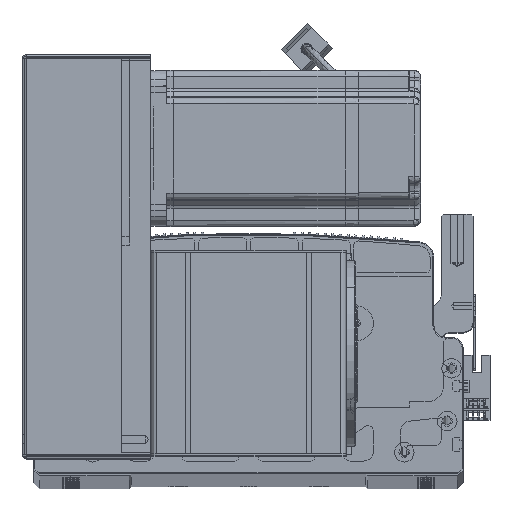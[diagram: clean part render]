
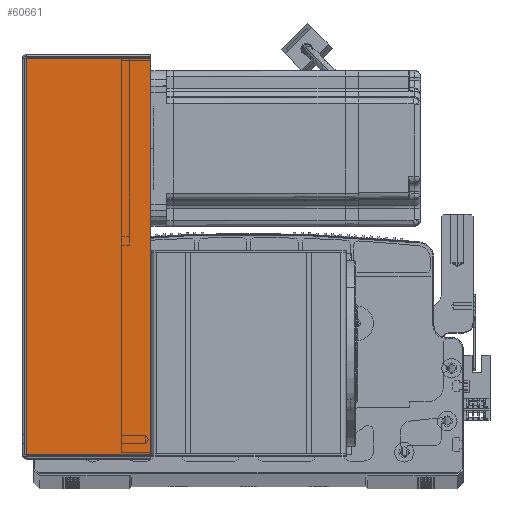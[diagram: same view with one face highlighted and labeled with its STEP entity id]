
A CAD part, top view. The second image highlights one B-rep face of the part: STEP entity #60661.
In plain terms, the highlighted planar face has unit normal (0, 0, 1) as drawn and (0, 1, 0) by its records, which use the part's own axes.
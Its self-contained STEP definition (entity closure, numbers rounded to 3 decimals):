
#1044 = EDGE_CURVE ( 'NONE', #84971, #80772, #10152, .T. ) ;
#2033 = ORIENTED_EDGE ( 'NONE', *, *, #13580, .F. ) ;
#4203 = DIRECTION ( 'NONE',  ( 1., 0., 0. ) ) ;
#4756 = FACE_OUTER_BOUND ( 'NONE', #4785, .T. ) ;
#4785 = EDGE_LOOP ( 'NONE', ( #32457, #64907, #42440, #2033 ) ) ;
#4966 = DIRECTION ( 'NONE',  ( 0., 0., -1. ) ) ;
#5075 = LINE ( 'NONE', #24574, #26545 ) ;
#10152 = LINE ( 'NONE', #41096, #97453 ) ;
#11559 = DIRECTION ( 'NONE',  ( 0., -1., 0. ) ) ;
#12204 = CARTESIAN_POINT ( 'NONE',  ( 64.5, 107.5, -0.707 ) ) ;
#13580 = EDGE_CURVE ( 'NONE', #104159, #99383, #87741, .T. ) ;
#14642 = CARTESIAN_POINT ( 'NONE',  ( 0.737, 107.5, -203.293 ) ) ;
#21918 = CARTESIAN_POINT ( 'NONE',  ( 64.5, 107.5, -204. ) ) ;
#24574 = CARTESIAN_POINT ( 'NONE',  ( 0.737, 107.5, 0. ) ) ;
#26545 = VECTOR ( 'NONE', #97329, 1000. ) ;
#32457 = ORIENTED_EDGE ( 'NONE', *, *, #83885, .F. ) ;
#39516 = VECTOR ( 'NONE', #4966, 1000. ) ;
#41096 = CARTESIAN_POINT ( 'NONE',  ( 0., 107.5, -0.707 ) ) ;
#41493 = AXIS2_PLACEMENT_3D ( 'NONE', #68582, #11559, #4203 ) ;
#42440 = ORIENTED_EDGE ( 'NONE', *, *, #64333, .T. ) ;
#43494 = CARTESIAN_POINT ( 'NONE',  ( 0.737, 107.5, -0.707 ) ) ;
#43587 = VECTOR ( 'NONE', #66172, 1000. ) ;
#51977 = PLANE ( 'NONE',  #41493 ) ;
#58049 = CARTESIAN_POINT ( 'NONE',  ( 0., 107.5, -203.293 ) ) ;
#60661 = ADVANCED_FACE ( 'NONE', ( #4756 ), #51977, .F. ) ;
#63647 = LINE ( 'NONE', #21918, #39516 ) ;
#64333 = EDGE_CURVE ( 'NONE', #80772, #99383, #63647, .T. ) ;
#64907 = ORIENTED_EDGE ( 'NONE', *, *, #1044, .T. ) ;
#66172 = DIRECTION ( 'NONE',  ( 1., 0., 0. ) ) ;
#68582 = CARTESIAN_POINT ( 'NONE',  ( 0., 107.5, 0. ) ) ;
#80772 = VERTEX_POINT ( 'NONE', #12204 ) ;
#82703 = DIRECTION ( 'NONE',  ( 1., 0., 0. ) ) ;
#83885 = EDGE_CURVE ( 'NONE', #84971, #104159, #5075, .T. ) ;
#84971 = VERTEX_POINT ( 'NONE', #43494 ) ;
#87205 = CARTESIAN_POINT ( 'NONE',  ( 64.5, 107.5, -203.293 ) ) ;
#87741 = LINE ( 'NONE', #58049, #43587 ) ;
#97329 = DIRECTION ( 'NONE',  ( 0., 0., -1. ) ) ;
#97453 = VECTOR ( 'NONE', #82703, 1000. ) ;
#99383 = VERTEX_POINT ( 'NONE', #87205 ) ;
#104159 = VERTEX_POINT ( 'NONE', #14642 ) ;
